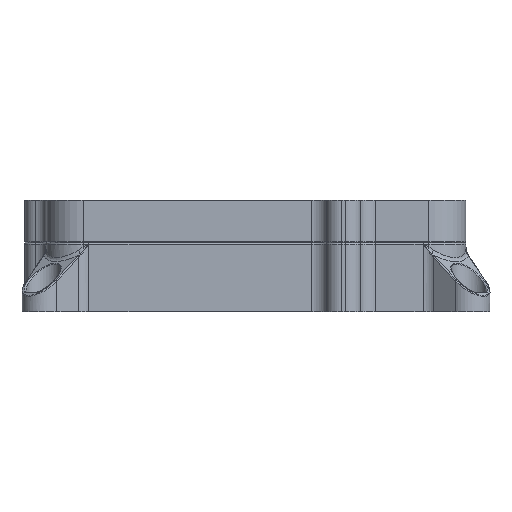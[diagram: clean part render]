
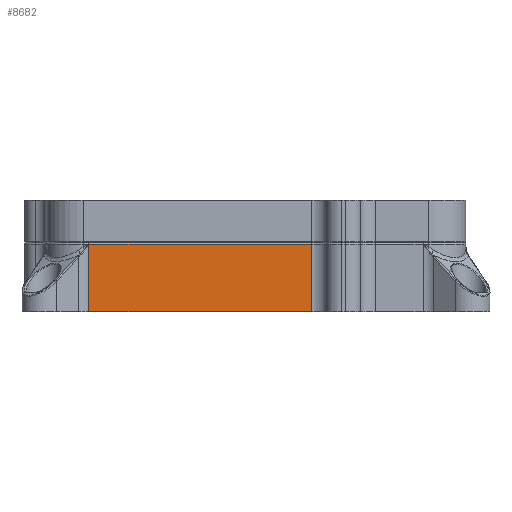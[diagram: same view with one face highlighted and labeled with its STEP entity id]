
A CAD part, front view. The second image highlights one B-rep face of the part: STEP entity #8682.
In plain terms, the highlighted planar face has unit normal (0, -1, 0).
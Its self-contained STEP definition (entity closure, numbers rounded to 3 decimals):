
#153=PLANE('',#9652);
#906=FACE_OUTER_BOUND('',#1472,.T.);
#1472=EDGE_LOOP('',(#7163,#7164,#7165,#7166));
#2070=LINE('',#16217,#2567);
#2098=LINE('',#16393,#2595);
#2100=LINE('',#16417,#2597);
#2103=LINE('',#16447,#2600);
#2567=VECTOR('',#11715,10.);
#2595=VECTOR('',#11867,10.);
#2597=VECTOR('',#11877,10.);
#2600=VECTOR('',#11890,10.);
#3865=VERTEX_POINT('',#16176);
#3870=VERTEX_POINT('',#16213);
#3904=VERTEX_POINT('',#16392);
#3910=VERTEX_POINT('',#16415);
#4970=EDGE_CURVE('',#3870,#3865,#2070,.T.);
#5035=EDGE_CURVE('',#3865,#3904,#2098,.T.);
#5043=EDGE_CURVE('',#3870,#3910,#2100,.T.);
#5049=EDGE_CURVE('',#3904,#3910,#2103,.T.);
#7163=ORIENTED_EDGE('',*,*,#4970,.F.);
#7164=ORIENTED_EDGE('',*,*,#5043,.T.);
#7165=ORIENTED_EDGE('',*,*,#5049,.F.);
#7166=ORIENTED_EDGE('',*,*,#5035,.F.);
#8682=ADVANCED_FACE('',(#906),#153,.T.);
#9652=AXIS2_PLACEMENT_3D('',#16446,#11888,#11889);
#11715=DIRECTION('',(1.,0.,0.));
#11867=DIRECTION('',(0.,0.,-1.));
#11877=DIRECTION('',(0.,0.,-1.));
#11888=DIRECTION('center_axis',(0.,-1.,0.));
#11889=DIRECTION('ref_axis',(1.,0.,0.));
#11890=DIRECTION('',(-1.,0.,0.));
#16176=CARTESIAN_POINT('',(46.95,-2.95,7.75));
#16213=CARTESIAN_POINT('',(5.087,-2.95,7.75));
#16217=CARTESIAN_POINT('',(17.75,-2.95,7.75));
#16392=CARTESIAN_POINT('',(46.95,-2.95,-4.95));
#16393=CARTESIAN_POINT('',(46.95,-2.95,8.));
#16415=CARTESIAN_POINT('',(5.087,-2.95,-4.95));
#16417=CARTESIAN_POINT('',(5.087,-2.95,-2.475));
#16446=CARTESIAN_POINT('Origin',(-1.,-2.95,0.));
#16447=CARTESIAN_POINT('',(17.75,-2.95,-4.95));
